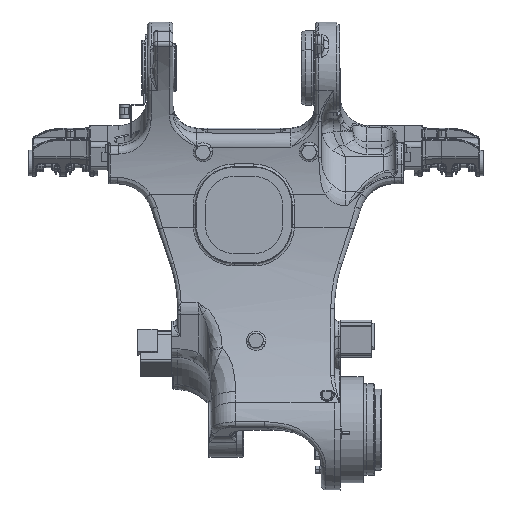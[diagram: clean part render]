
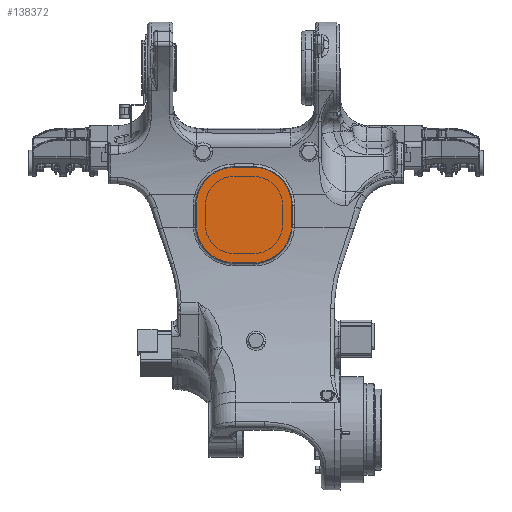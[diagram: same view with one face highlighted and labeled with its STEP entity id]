
A CAD part, left-side view. The second image highlights one B-rep face of the part: STEP entity #138372.
In plain terms, the highlighted planar face has unit normal (-1, 0, 0).
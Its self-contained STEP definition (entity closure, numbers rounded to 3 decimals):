
#138123=AXIS2_PLACEMENT_3D('Circle Axis2P3D',#138121,#138122,$) ;
#138185=AXIS2_PLACEMENT_3D('Circle Axis2P3D',#138183,#138184,$) ;
#138247=AXIS2_PLACEMENT_3D('Circle Axis2P3D',#138245,#138246,$) ;
#138309=AXIS2_PLACEMENT_3D('Circle Axis2P3D',#138307,#138308,$) ;
#138360=AXIS2_PLACEMENT_3D('Plane Axis2P3D',#138357,#138358,#138359) ;
#138104=CARTESIAN_POINT('Vertex',(377.7,-148.,2250.)) ;
#138118=CARTESIAN_POINT('Vertex',(377.7,10.,2408.)) ;
#138121=CARTESIAN_POINT('Axis2P3D Location',(377.7,10.,2250.)) ;
#138149=CARTESIAN_POINT('Vertex',(377.7,90.,2408.)) ;
#138152=CARTESIAN_POINT('Line Origine',(377.7,50.,2408.)) ;
#138180=CARTESIAN_POINT('Vertex',(377.7,248.,2250.)) ;
#138183=CARTESIAN_POINT('Axis2P3D Location',(377.7,90.,2250.)) ;
#138211=CARTESIAN_POINT('Vertex',(377.7,248.,2170.)) ;
#138214=CARTESIAN_POINT('Line Origine',(377.7,248.,2210.)) ;
#138242=CARTESIAN_POINT('Vertex',(377.7,90.,2012.)) ;
#138245=CARTESIAN_POINT('Axis2P3D Location',(377.7,90.,2170.)) ;
#138273=CARTESIAN_POINT('Vertex',(377.7,10.,2012.)) ;
#138276=CARTESIAN_POINT('Line Origine',(377.7,50.,2012.)) ;
#138304=CARTESIAN_POINT('Vertex',(377.7,-148.,2170.)) ;
#138307=CARTESIAN_POINT('Axis2P3D Location',(377.7,10.,2170.)) ;
#138329=CARTESIAN_POINT('Line Origine',(377.7,-148.,2210.)) ;
#138357=CARTESIAN_POINT('Axis2P3D Location',(377.7,50.,2210.)) ;
#138122=DIRECTION('Axis2P3D Direction',(-1.,0.,0.)) ;
#138153=DIRECTION('Vector Direction',(0.,1.,0.)) ;
#138184=DIRECTION('Axis2P3D Direction',(-1.,0.,0.)) ;
#138215=DIRECTION('Vector Direction',(0.,0.,-1.)) ;
#138246=DIRECTION('Axis2P3D Direction',(-1.,0.,0.)) ;
#138277=DIRECTION('Vector Direction',(0.,1.,0.)) ;
#138308=DIRECTION('Axis2P3D Direction',(-1.,0.,0.)) ;
#138330=DIRECTION('Vector Direction',(0.,0.,1.)) ;
#138358=DIRECTION('Axis2P3D Direction',(-1.,0.,0.)) ;
#138359=DIRECTION('Axis2P3D XDirection',(0.,-1.,0.)) ;
#138154=VECTOR('Line Direction',#138153,1.) ;
#138216=VECTOR('Line Direction',#138215,1.) ;
#138278=VECTOR('Line Direction',#138277,1.) ;
#138331=VECTOR('Line Direction',#138330,1.) ;
#138363=ORIENTED_EDGE('',*,*,#138125,.T.) ;
#138364=ORIENTED_EDGE('',*,*,#138156,.T.) ;
#138365=ORIENTED_EDGE('',*,*,#138187,.T.) ;
#138366=ORIENTED_EDGE('',*,*,#138218,.T.) ;
#138367=ORIENTED_EDGE('',*,*,#138249,.T.) ;
#138368=ORIENTED_EDGE('',*,*,#138280,.T.) ;
#138369=ORIENTED_EDGE('',*,*,#138311,.T.) ;
#138370=ORIENTED_EDGE('',*,*,#138333,.T.) ;
#138372=ADVANCED_FACE('J2_E1_MC1700DL-02.1\\E1-022.1\\\X2\FF8AFF9FFF70FF82\X0\ \X2\FF8EFF9EFF83FF9EFF68FF70\X0\',(#138371),#138361,.T.) ;
#138124=CIRCLE('generated circle',#138123,158.) ;
#138186=CIRCLE('generated circle',#138185,158.) ;
#138248=CIRCLE('generated circle',#138247,158.) ;
#138310=CIRCLE('generated circle',#138309,158.) ;
#138125=EDGE_CURVE('',#138105,#138119,#138124,.T.) ;
#138156=EDGE_CURVE('',#138119,#138150,#138155,.T.) ;
#138187=EDGE_CURVE('',#138150,#138181,#138186,.T.) ;
#138218=EDGE_CURVE('',#138181,#138212,#138217,.T.) ;
#138249=EDGE_CURVE('',#138212,#138243,#138248,.T.) ;
#138280=EDGE_CURVE('',#138243,#138274,#138279,.F.) ;
#138311=EDGE_CURVE('',#138274,#138305,#138310,.T.) ;
#138333=EDGE_CURVE('',#138305,#138105,#138332,.T.) ;
#138362=EDGE_LOOP('',(#138363,#138364,#138365,#138366,#138367,#138368,#138369,#138370)) ;
#138371=FACE_OUTER_BOUND('',#138362,.T.) ;
#138155=LINE('Line',#138152,#138154) ;
#138217=LINE('Line',#138214,#138216) ;
#138279=LINE('Line',#138276,#138278) ;
#138332=LINE('Line',#138329,#138331) ;
#138361=PLANE('',#138360) ;
#138105=VERTEX_POINT('',#138104) ;
#138119=VERTEX_POINT('',#138118) ;
#138150=VERTEX_POINT('',#138149) ;
#138181=VERTEX_POINT('',#138180) ;
#138212=VERTEX_POINT('',#138211) ;
#138243=VERTEX_POINT('',#138242) ;
#138274=VERTEX_POINT('',#138273) ;
#138305=VERTEX_POINT('',#138304) ;
